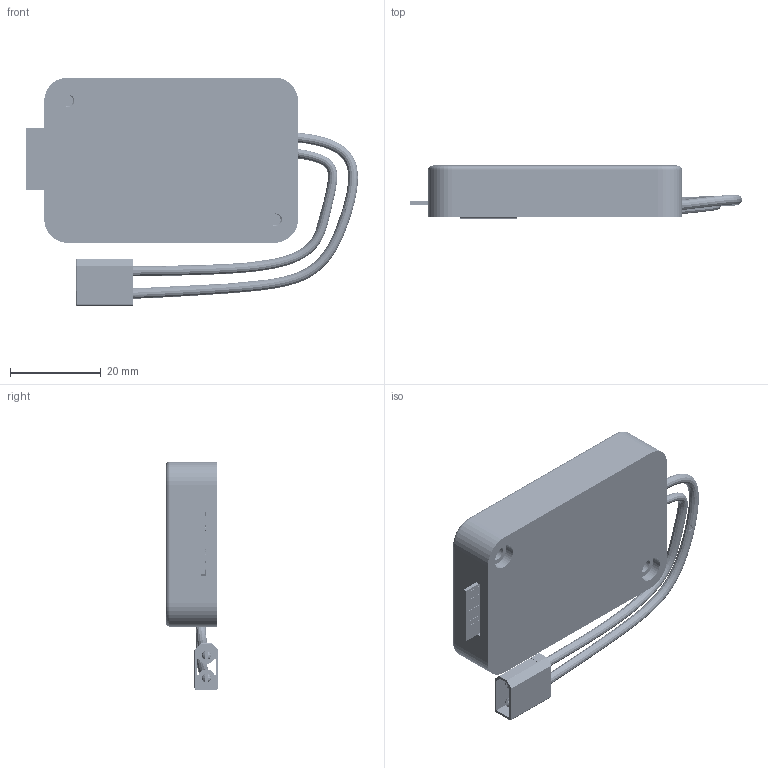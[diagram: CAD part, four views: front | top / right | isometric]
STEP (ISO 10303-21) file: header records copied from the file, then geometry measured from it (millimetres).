
FILE_DESCRIPTION(/* description */ (''),/* implementation_level */ '2;1');
FILE_NAME(/* name */ 'D:/_My Docs on T530/Matt''s Homework/Projects/GitHub/TTL-HW/STEPs/Control Module SP Metal Cover v20.step',/* time_stamp */ '2021-03-21T23:41:08-04:00',/* author */ (''),/* organization */ (''),/* preprocessor_version */ 'ST-DEVELOPER v18.1',/* originating_system */ 'Autodesk Translation Framework v9.10.0.1330',/* authorisation */ '');
FILE_SCHEMA (('AUTOMOTIVE_DESIGN { 1 0 10303 214 3 1 1 }'));
Products named in the file (55): Control Module SP Metal Cover; TelTail Lights SP updated; PCB Component; Board; ATSAMD21G-A; 32.768kHz; HM-11; 1k; DUAL_NFET_3.5A; JST_PH_2POS; JST_PH_4POS; LMZ35003; 2.2uf; JST_PH_3POS; SS210ATR; PSMN8R5-60YS; 0.1uF; RES-07859; 22nf; AZ1117EH-3.3; 500mA/300V; 500mA/300V_1; LSM6DS3DOT_INDICATION; 47uf; PMEG2010ER; 330; BLUE; BLUE_1; User Library-LED_0603_G_Pocket002; User Library-LED_0603_G_Pad004; User Library-LED_0603_G_Fillet; User Library-LED_0603_G_Pocket001; User Library-LED_0603_G_Pad; USB3160-XX-XXXX-X-X_REVA; ÊäÈë1; ÇÐ³ý-À­Éì4; 100; 080504; Lötende; CORTEX_DEBUG_PTH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
Assembly tree (126 placements, depth 5):
  Control Module SP Metal Cover
    TelTail Lights SP updated
      PCB Component
        Board
        ATSAMD21G-A
        32.768kHz
        HM-11
        1k  x3
        DUAL_NFET_3.5A  x4
        JST_PH_2POS  x5
        JST_PH_4POS  x2
        LMZ35003
        47uf  x4
        2.2uf
        JST_PH_3POS  x2
        SS210ATR
         
        PSMN8R5-60YS
        PMEG2010ER  x2
        0.1uF  x12
        RES-07859  x2
        22nf
        AZ1117EH-3.3
        500mA/300V
        500mA/300V_1
        LSM6DS3DOT_INDICATION
        330  x32
        BLUE
          User Library-LED_0603_G_Pocket002
          User Library-LED_0603_G_Pad004
          User Library-LED_0603_G_Fillet
          User Library-LED_0603_G_Pocket001
          User Library-LED_0603_G_Pad
        BLUE_1
          User Library-LED_0603_G_Pocket002
          User Library-LED_0603_G_Pad004
          User Library-LED_0603_G_Fillet
          User Library-LED_0603_G_Pocket001
          User Library-LED_0603_G_Pad
        USB3160-XX-XXXX-X-X_REVA
          ÊäÈë1
          ÇÐ³ý-À­Éì4
        100
          080504
          Lötende  x2
        CORTEX_DEBUG_PTH
        STAND-OFF  x2
        TTL_LARGE
        1MM_TP  x8
    XT30-M
      XT30
        XT30_Stecker
        XT30_Buchse (1)
          XT30_Buchse
    Control Module Enclosure SP Metal
      Cover SP Metal
      Base SP - Pan Head Screw
    Wires
    BLUE PLUG
    GREEN PLUG
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Bounding box: 73.12 x 11.6 x 50.42 mm (x, y, z)
Volume: 15568.3 mm3; surface area: 24136.1 mm2
Topology: 138 solids, 140 shells, 10853 faces, 28678 edges, 18378 vertices
Faces by surface type: plane 6366, cylinder 2925, sphere 802, bspline 718, cone 27, torus 15
Full cylindrical faces by diameter (mm): 0.08 x2, 0.2 x2, 0.283 x2, 0.3 x5, 0.305 x5, 0.35 x327, 0.508 x10, 0.6 x1, 0.75 x1, 0.8 x24, 0.85 x2, 1.65 x2, 2 x4, 2.529 x8, 2.75 x4, 3.086 x6, 3.302 x2, 3.4 x2, 4 x1, 5.6 x2
Entity records: 183324 total; most frequent: CARTESIAN_POINT 42823, ORIENTED_EDGE 28055, DIRECTION 26740, EDGE_CURVE 14028, LINE 9704, VECTOR 9704, VERTEX_POINT 8725, AXIS2_PLACEMENT_3D 8518
